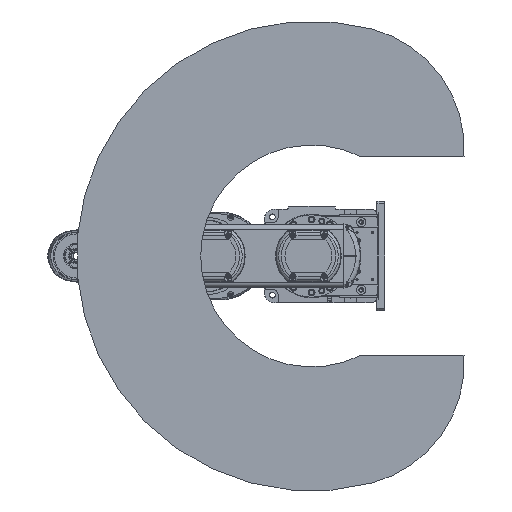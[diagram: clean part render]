
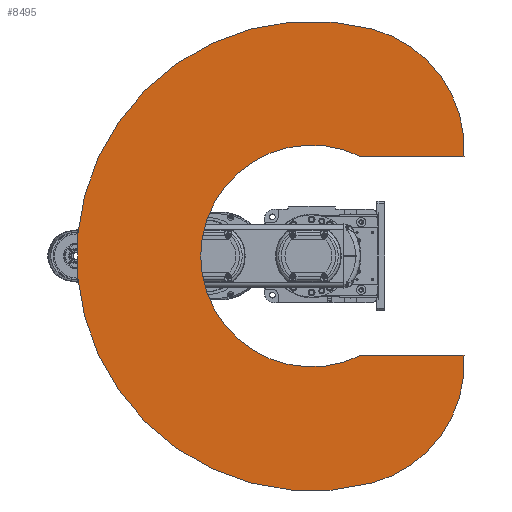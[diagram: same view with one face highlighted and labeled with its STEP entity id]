
A CAD part, front view. The second image highlights one B-rep face of the part: STEP entity #8495.
In plain terms, the highlighted planar face has unit normal (0, -1, 0).
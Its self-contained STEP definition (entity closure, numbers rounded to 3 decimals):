
#8495 = ADVANCED_FACE( '', ( #18735 ), #18736, .F. );
#18735 = FACE_OUTER_BOUND( '', #30464, .T. );
#18736 = PLANE( '', #30465 );
#30464 = EDGE_LOOP( '', ( #53897, #53898, #53899, #53900, #53901, #53902 ) );
#30465 = AXIS2_PLACEMENT_3D( '', #53903, #53904, #53905 );
#53897 = ORIENTED_EDGE( '', *, *, #61066, .T. );
#53898 = ORIENTED_EDGE( '', *, *, #67452, .F. );
#53899 = ORIENTED_EDGE( '', *, *, #68853, .F. );
#53900 = ORIENTED_EDGE( '', *, *, #63658, .F. );
#53901 = ORIENTED_EDGE( '', *, *, #65910, .T. );
#53902 = ORIENTED_EDGE( '', *, *, #68854, .F. );
#53903 = CARTESIAN_POINT( '', ( 102.614, 0., 27.495 ) );
#53904 = DIRECTION( '', ( 0., 1., 0. ) );
#53905 = DIRECTION( '', ( 0., 0., 1. ) );
#61066 = EDGE_CURVE( '', #72025, #72023, #72026, .T. );
#63658 = EDGE_CURVE( '', #76378, #76380, #76381, .T. );
#65910 = EDGE_CURVE( '', #76378, #79754, #79756, .T. );
#67452 = EDGE_CURVE( '', #81903, #72023, #81905, .T. );
#68853 = EDGE_CURVE( '', #76380, #81903, #83642, .T. );
#68854 = EDGE_CURVE( '', #72025, #79754, #83643, .F. );
#72023 = VERTEX_POINT( '', #88135 );
#72025 = VERTEX_POINT( '', #88138 );
#72026 = LINE( '', #88139, #88140 );
#76378 = VERTEX_POINT( '', #95252 );
#76380 = VERTEX_POINT( '', #95255 );
#76381 = CIRCLE( '', #95256, 237.533 );
#79754 = VERTEX_POINT( '', #101187 );
#79756 = LINE( '', #101190, #101191 );
#81903 = VERTEX_POINT( '', #104945 );
#81905 = CIRCLE( '', #104948, 237.533 );
#83642 = CIRCLE( '', #107914, 450. );
#83643 = CIRCLE( '', #107915, 212.47 );
#88135 = CARTESIAN_POINT( '', ( -190., 0., 292.035 ) );
#88138 = CARTESIAN_POINT( '', ( -190., 0., 95.097 ) );
#88139 = CARTESIAN_POINT( '', ( -190., 0., 0. ) );
#88140 = VECTOR( '', #111168, 1000. );
#95252 = CARTESIAN_POINT( '', ( 190., 0., 292.035 ) );
#95255 = CARTESIAN_POINT( '', ( 434.667, 0., 116.469 ) );
#95256 = AXIS2_PLACEMENT_3D( '', #114632, #114633, #114634 );
#101187 = CARTESIAN_POINT( '', ( 190., 0., 95.097 ) );
#101190 = CARTESIAN_POINT( '', ( 190., 0., 400. ) );
#101191 = VECTOR( '', #117320, 1000. );
#104945 = CARTESIAN_POINT( '', ( -434.667, 0., 116.469 ) );
#104948 = AXIS2_PLACEMENT_3D( '', #119060, #119061, #119062 );
#107914 = AXIS2_PLACEMENT_3D( '', #120367, #120368, #120369 );
#107915 = AXIS2_PLACEMENT_3D( '', #120370, #120371, #120372 );
#111168 = DIRECTION( '', ( 0., 0., 1. ) );
#114632 = CARTESIAN_POINT( '', ( 205.228, 0., 54.991 ) );
#114633 = DIRECTION( '', ( 0., 1., 0. ) );
#114634 = DIRECTION( '', ( 1., 0., 0. ) );
#117320 = DIRECTION( '', ( 0., 0., -1. ) );
#119060 = CARTESIAN_POINT( '', ( -205.228, 0., 54.991 ) );
#119061 = DIRECTION( '', ( 0., 1., 0. ) );
#119062 = DIRECTION( '', ( 1., 0., 0. ) );
#120367 = CARTESIAN_POINT( '', ( 0., 0., 0. ) );
#120368 = DIRECTION( '', ( 0., 1., 0. ) );
#120369 = DIRECTION( '', ( 1., 0., 0. ) );
#120370 = CARTESIAN_POINT( '', ( 0., 0., 0. ) );
#120371 = DIRECTION( '', ( 0., 1., 0. ) );
#120372 = DIRECTION( '', ( 0., 0., 1. ) );
